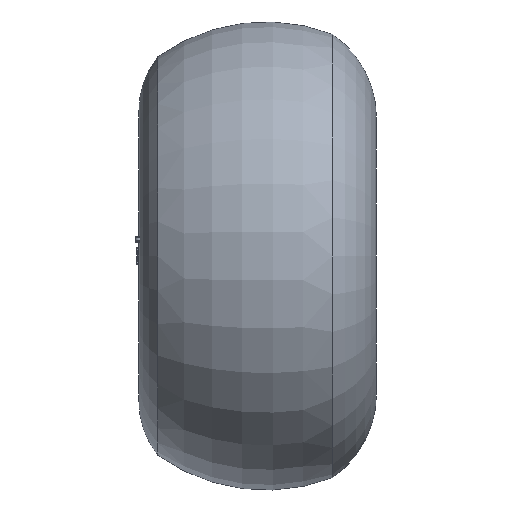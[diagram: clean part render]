
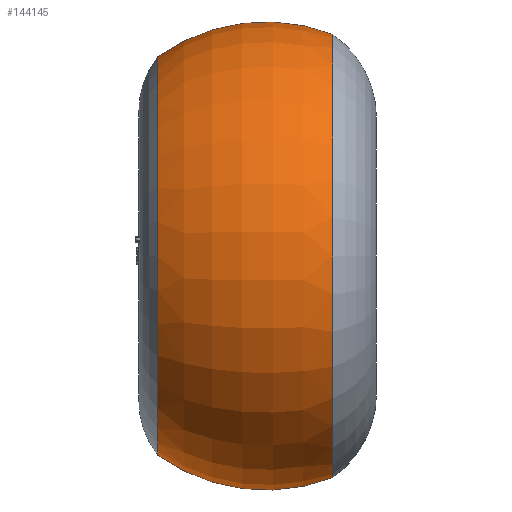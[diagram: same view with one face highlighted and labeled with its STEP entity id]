
A CAD part, left-side view. The second image highlights one B-rep face of the part: STEP entity #144145.
In plain terms, the highlighted toroidal (fillet/blend) face has major radius 650 mm and minor radius 2449.09 mm.
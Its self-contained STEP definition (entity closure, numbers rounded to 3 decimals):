
#1629 = CARTESIAN_POINT ( 'NONE',  ( 0., 500., 650. ) ) ;
#1631 = DIRECTION ( 'NONE',  ( 1., 0., 0. ) ) ;
#1633 = DIRECTION ( 'NONE',  ( 0., 0., -1. ) ) ;
#1647 = CARTESIAN_POINT ( 'NONE',  ( 0., 500., -650. ) ) ;
#1649 = DIRECTION ( 'NONE',  ( -1., 0., 0. ) ) ;
#1652 = DIRECTION ( 'NONE',  ( 0., 0., 1. ) ) ;
#1752 = CARTESIAN_POINT ( 'NONE',  ( 0., -382.472, 0. ) ) ;
#1754 = DIRECTION ( 'NONE',  ( 0., -1., 0. ) ) ;
#1756 = DIRECTION ( 'NONE',  ( 0., 0., -1. ) ) ;
#1761 = CARTESIAN_POINT ( 'NONE',  ( 0., 1935.378, 0. ) ) ;
#1763 = DIRECTION ( 'NONE',  ( 0., -1., 0. ) ) ;
#1764 = DIRECTION ( 'NONE',  ( 0., 0., -1. ) ) ;
#27816 = TOROIDAL_SURFACE ( 'NONE', #27835, 650., 2449.09 ) ;
#27835 = AXIS2_PLACEMENT_3D ( 'NONE', #115198, #115179, #115200 ) ;
#30606 = EDGE_LOOP ( 'NONE', ( #65539, #65536, #65534, #65532 ) ) ;
#64347 = CIRCLE ( 'NONE', #64366, 2449.09 ) ;
#64351 = CIRCLE ( 'NONE', #64357, 2449.09 ) ;
#64357 = AXIS2_PLACEMENT_3D ( 'NONE', #1629, #1631, #1633 ) ;
#64366 = AXIS2_PLACEMENT_3D ( 'NONE', #1647, #1649, #1652 ) ;
#64411 = CIRCLE ( 'NONE', #64417, 2934.576 ) ;
#64415 = CIRCLE ( 'NONE', #64421, 2634.372 ) ;
#64417 = AXIS2_PLACEMENT_3D ( 'NONE', #1752, #1754, #1756 ) ;
#64421 = AXIS2_PLACEMENT_3D ( 'NONE', #1761, #1763, #1764 ) ;
#65532 = ORIENTED_EDGE ( 'NONE', *, *, #156467, .F. ) ;
#65534 = ORIENTED_EDGE ( 'NONE', *, *, #156441, .T. ) ;
#65536 = ORIENTED_EDGE ( 'NONE', *, *, #156469, .T. ) ;
#65539 = ORIENTED_EDGE ( 'NONE', *, *, #156436, .F. ) ;
#115179 = DIRECTION ( 'NONE',  ( 0., -1., 0. ) ) ;
#115186 = FACE_OUTER_BOUND ( 'NONE', #30606, .T. ) ;
#115198 = CARTESIAN_POINT ( 'NONE',  ( 0., 500., 0. ) ) ;
#115200 = DIRECTION ( 'NONE',  ( 0., 0., -1. ) ) ;
#144145 = ADVANCED_FACE ( 'NONE', ( #115186 ), #27816, .T. ) ;
#156436 = EDGE_CURVE ( 'NONE', #173752, #173760, #64351, .T. ) ;
#156441 = EDGE_CURVE ( 'NONE', #173741, #173762, #64347, .T. ) ;
#156467 = EDGE_CURVE ( 'NONE', #173760, #173762, #64411, .T. ) ;
#156469 = EDGE_CURVE ( 'NONE', #173752, #173741, #64415, .T. ) ;
#163870 = CARTESIAN_POINT ( 'NONE',  ( 0., 1935.378, -2634.372 ) ) ;
#163884 = CARTESIAN_POINT ( 'NONE',  ( 0., 1935.378, 2634.372 ) ) ;
#163891 = CARTESIAN_POINT ( 'NONE',  ( 0., -382.472, 2934.576 ) ) ;
#163893 = CARTESIAN_POINT ( 'NONE',  ( 0., -382.472, -2934.576 ) ) ;
#173741 = VERTEX_POINT ( 'NONE', #163870 ) ;
#173752 = VERTEX_POINT ( 'NONE', #163884 ) ;
#173760 = VERTEX_POINT ( 'NONE', #163891 ) ;
#173762 = VERTEX_POINT ( 'NONE', #163893 ) ;
